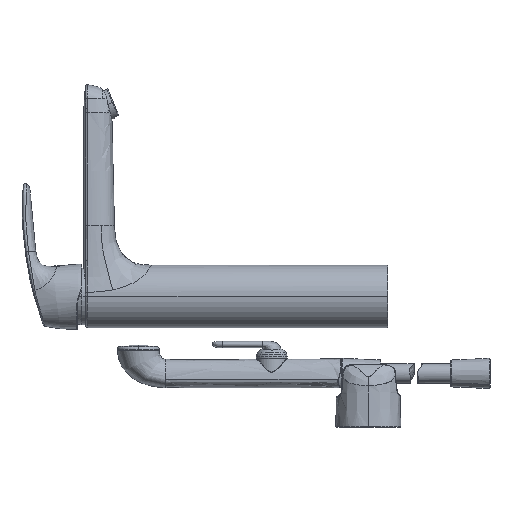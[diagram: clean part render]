
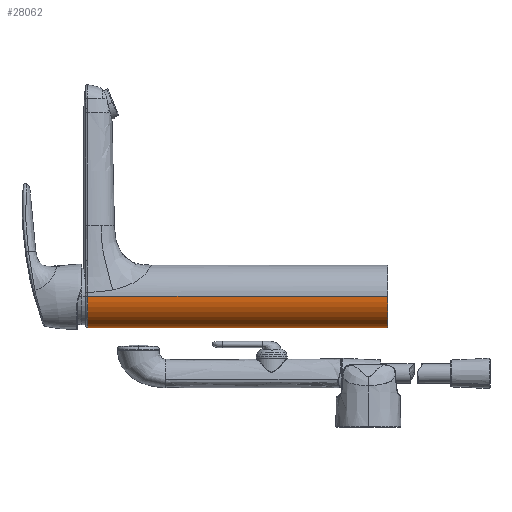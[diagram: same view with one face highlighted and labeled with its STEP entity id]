
A CAD part, left-side view. The second image highlights one B-rep face of the part: STEP entity #28062.
In plain terms, the highlighted cylindrical face has radius 24.1 mm (diameter 48.2 mm), a partial arc.
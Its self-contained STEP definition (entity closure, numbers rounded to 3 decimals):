
#392 = DIRECTION ( 'NONE',  ( 1., 0., 0. ) ) ;
#537 = DIRECTION ( 'NONE',  ( 0., -1., 0. ) ) ;
#1254 = CARTESIAN_POINT ( 'NONE',  ( -24.1, 230.674, 0. ) ) ;
#3397 = VERTEX_POINT ( 'NONE', #1254 ) ;
#3505 = CARTESIAN_POINT ( 'NONE',  ( 24.1, 230.674, 0. ) ) ;
#3612 = CIRCLE ( 'NONE', #31699, 24.1 ) ;
#5076 = VECTOR ( 'NONE', #41122, 1000. ) ;
#5560 = CARTESIAN_POINT ( 'NONE',  ( 24.1, 0., 0. ) ) ;
#6001 = CYLINDRICAL_SURFACE ( 'NONE', #9909, 24.1 ) ;
#8072 = EDGE_CURVE ( 'NONE', #34887, #13400, #3612, .T. ) ;
#8427 = B_SPLINE_CURVE_WITH_KNOTS ( 'NONE', 3,
 ( #38364, #35324, #29017, #38652 ),
 .UNSPECIFIED., .F., .F.,
 ( 4, 4 ),
 ( 0.993, 1. ),
 .UNSPECIFIED. ) ;
#9272 = CARTESIAN_POINT ( 'NONE',  ( 24.1, 230.674, -0.031 ) ) ;
#9437 = VECTOR ( 'NONE', #22149, 1000. ) ;
#9824 = CARTESIAN_POINT ( 'NONE',  ( 24.1, 230.674, 0. ) ) ;
#9909 = AXIS2_PLACEMENT_3D ( 'NONE', #38426, #28938, #13782 ) ;
#10003 = CARTESIAN_POINT ( 'NONE',  ( 0., 230.674, 0. ) ) ;
#10076 = CARTESIAN_POINT ( 'NONE',  ( 24.1, 230.674, -0.031 ) ) ;
#10505 = DIRECTION ( 'NONE',  ( 0., 1., 0. ) ) ;
#11596 = CARTESIAN_POINT ( 'NONE',  ( 24.1, 116.492, 0. ) ) ;
#11808 = EDGE_CURVE ( 'NONE', #13400, #3397, #34461, .T. ) ;
#13187 = EDGE_CURVE ( 'NONE', #37639, #16421, #29733, .T. ) ;
#13400 = VERTEX_POINT ( 'NONE', #16798 ) ;
#13782 = DIRECTION ( 'NONE',  ( 1., 0., 0. ) ) ;
#14996 = FACE_OUTER_BOUND ( 'NONE', #24348, .T. ) ;
#15913 = LINE ( 'NONE', #11596, #9437 ) ;
#16421 = VERTEX_POINT ( 'NONE', #3505 ) ;
#16798 = CARTESIAN_POINT ( 'NONE',  ( -24.1, 0., 0. ) ) ;
#17397 = EDGE_CURVE ( 'NONE', #34654, #37639, #25440, .T. ) ;
#19751 = AXIS2_PLACEMENT_3D ( 'NONE', #10003, #537, #392 ) ;
#21695 = ORIENTED_EDGE ( 'NONE', *, *, #11808, .T. ) ;
#22149 = DIRECTION ( 'NONE',  ( 0., 1., 0. ) ) ;
#24348 = EDGE_LOOP ( 'NONE', ( #35180, #21695, #34686, #32326, #35793, #34014 ) ) ;
#25440 = CIRCLE ( 'NONE', #19751, 24.1 ) ;
#25553 = CARTESIAN_POINT ( 'NONE',  ( 24.1, 230.674, -0.012 ) ) ;
#28062 = ADVANCED_FACE ( 'NONE', ( #14996 ), #6001, .T. ) ;
#28938 = DIRECTION ( 'NONE',  ( 0., 1., 0. ) ) ;
#29017 = CARTESIAN_POINT ( 'NONE',  ( -24.1, 230.674, -0.02 ) ) ;
#29733 = B_SPLINE_CURVE_WITH_KNOTS ( 'NONE', 3,
 ( #9272, #38094, #25553, #9824 ),
 .UNSPECIFIED., .F., .F.,
 ( 4, 4 ),
 ( 0., 0.009 ),
 .UNSPECIFIED. ) ;
#31699 = AXIS2_PLACEMENT_3D ( 'NONE', #39628, #10505, #35881 ) ;
#32326 = ORIENTED_EDGE ( 'NONE', *, *, #17397, .T. ) ;
#33942 = EDGE_CURVE ( 'NONE', #3397, #34654, #8427, .T. ) ;
#34014 = ORIENTED_EDGE ( 'NONE', *, *, #34215, .F. ) ;
#34215 = EDGE_CURVE ( 'NONE', #34887, #16421, #15913, .T. ) ;
#34461 = LINE ( 'NONE', #34997, #5076 ) ;
#34654 = VERTEX_POINT ( 'NONE', #36931 ) ;
#34686 = ORIENTED_EDGE ( 'NONE', *, *, #33942, .T. ) ;
#34887 = VERTEX_POINT ( 'NONE', #5560 ) ;
#34997 = CARTESIAN_POINT ( 'NONE',  ( -24.1, 116.492, 0. ) ) ;
#35180 = ORIENTED_EDGE ( 'NONE', *, *, #8072, .T. ) ;
#35324 = CARTESIAN_POINT ( 'NONE',  ( -24.1, 230.674, -0.01 ) ) ;
#35793 = ORIENTED_EDGE ( 'NONE', *, *, #13187, .T. ) ;
#35881 = DIRECTION ( 'NONE',  ( 1., 0., 0. ) ) ;
#36931 = CARTESIAN_POINT ( 'NONE',  ( -24.1, 230.674, -0.031 ) ) ;
#37639 = VERTEX_POINT ( 'NONE', #10076 ) ;
#38094 = CARTESIAN_POINT ( 'NONE',  ( 24.1, 230.674, -0.023 ) ) ;
#38364 = CARTESIAN_POINT ( 'NONE',  ( -24.1, 230.674, 0. ) ) ;
#38426 = CARTESIAN_POINT ( 'NONE',  ( 0., 116.492, 0. ) ) ;
#38652 = CARTESIAN_POINT ( 'NONE',  ( -24.1, 230.674, -0.031 ) ) ;
#39628 = CARTESIAN_POINT ( 'NONE',  ( 0., 0., 0. ) ) ;
#41122 = DIRECTION ( 'NONE',  ( 0., 1., 0. ) ) ;
